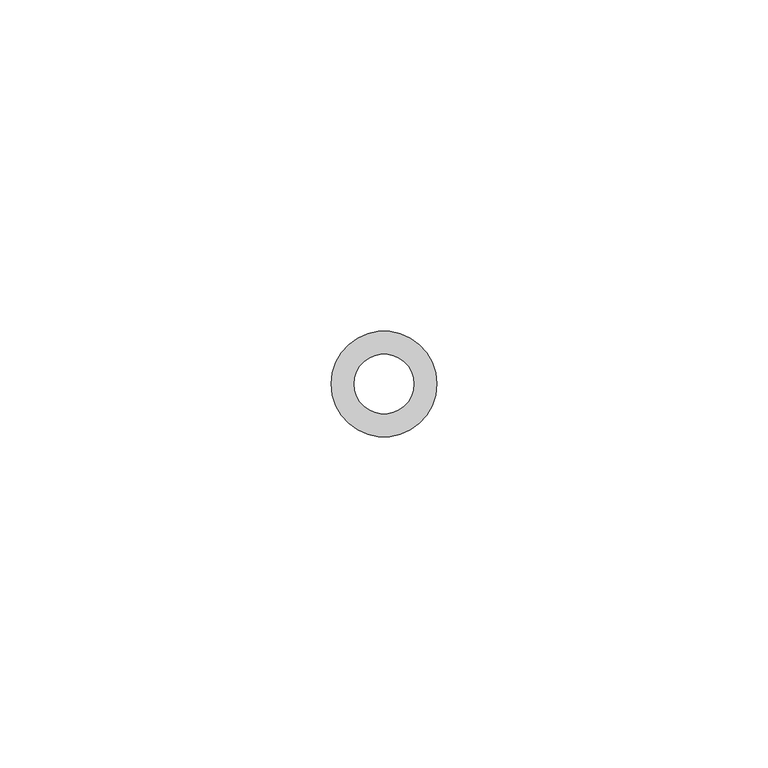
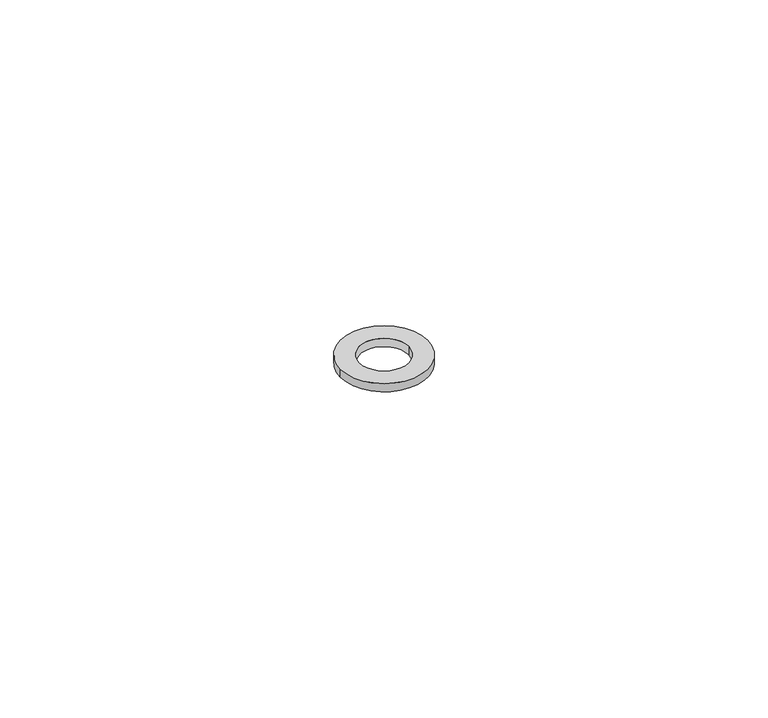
"""IFC4 building model written with IfcOpenShell, lengths in millimetres: valve geometry, Superfix Flat Washer : Superfix Flat Washer Extra +  M8x15x1.5."""

from ifc_helpers import new_model, si_unit, point, origin, origin_with_axes, origin_2d, place, context, project, spatial, circle_curve, trimmed, segment, composite_curve, outline, extrude, source, transform, mapped, element, save


def valve_fad8a5b8(model_context):
    return source(origin(), model_context, "Body", "SweptSolid", [
        extrude(outline(composite_curve([segment(trimmed(circle_curve(origin_2d(), 8.0), [point((-8.0, 0.0))], [point((8.0, 0.0))], False, "CARTESIAN"), True, "CONTINUOUS"), segment(trimmed(circle_curve(origin_2d(), 8.0), [point((8.0, 0.0))], [point((-8.0, 0.0))], False, "CARTESIAN"), True, "CONTINUOUS")], self_intersect=False), holes=[composite_curve([segment(trimmed(circle_curve(origin_2d(), 4.5), [point((-4.5, 0.0))], [point((4.5, 0.0))], True, "CARTESIAN"), True, "CONTINUOUS"), segment(trimmed(circle_curve(origin_2d(), 4.5), [point((4.5, 0.0))], [point((-4.5, 0.0))], True, "CARTESIAN"), True, "CONTINUOUS")], self_intersect=False)]), origin_with_axes(), (0.0, 0.0, 1.0), 1.6),
    ])


if __name__ == "__main__":
    model = new_model("IFC4")
    model_context = context("Model", 3, world=origin())
    ifc_project = project(units=[si_unit("LENGTHUNIT", "METRE", prefix="MILLI")], contexts=[model_context])
    site = spatial("IfcSite", under=ifc_project)
    building = spatial("IfcBuilding", under=site)
    placement = place(None, origin())
    valve_shape = valve_fad8a5b8(model_context)
    element("IfcValve", 1, ObjectType="Superfix Flat Washer : Superfix Flat Washer Extra +  M8x15x1.5", at=placement, inside=building, context=model_context, shape_type="MappedRepresentation", body=[
        mapped(valve_shape, transform((0.0, 0.0, 0.0), x_axis=(1.0, 0.0, 0.0), y_axis=(0.0, 1.0, 0.0), z_axis=(0.0, 0.0, 1.0))),
    ])
    save(model, "model.ifc")
